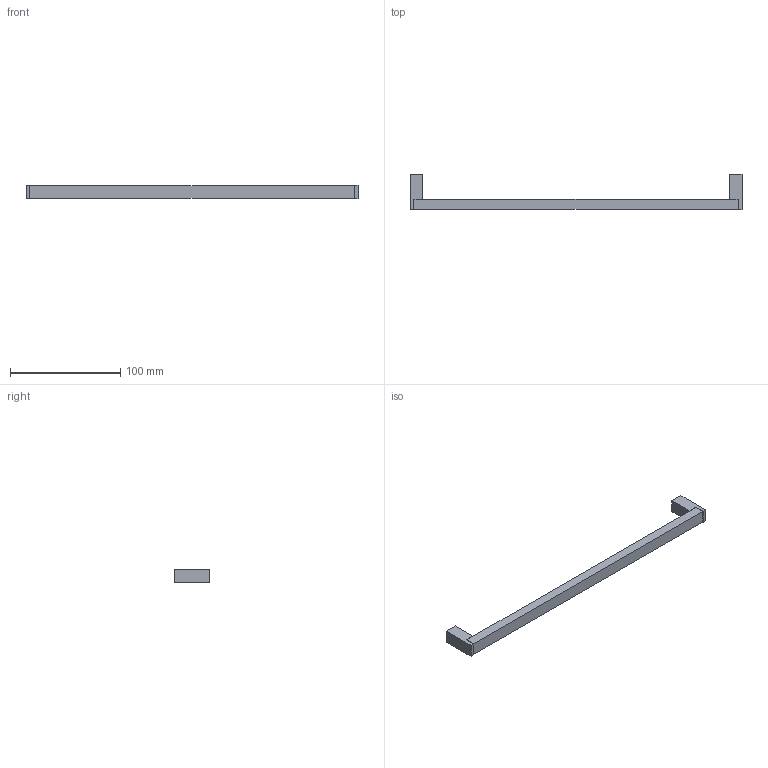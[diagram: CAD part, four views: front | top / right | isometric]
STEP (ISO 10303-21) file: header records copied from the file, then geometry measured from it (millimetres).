
FILE_DESCRIPTION( ( 'STEP AP214' ), '1' );
FILE_NAME( 'C:/Users/kulkarni/Desktop/Apurva/2015/Prodecor_2016/Cadfiles/bermeo/9208079.stp', ' ', ( ' ' ), ( ' ' ), 'PSStep 15.0.47', 'PARTsolutions', ' ' );
FILE_SCHEMA( ( 'AUTOMOTIVE_DESIGN { 1 0 10303 214 1 1 1 1 }' ) );
Length unit declared in the file: millimetre
Products named in the file (1): _
Bounding box: 301 x 32 x 12.15 mm (x, y, z)
Volume: 37204.5 mm3; surface area: 15297.4 mm2
Topology: 1 solids, 1 shells, 26 faces, 62 edges, 40 vertices
Faces by surface type: plane 24, cylinder 2
Full cylindrical faces by diameter (mm): 5 x2
Entity records: 952 total; most frequent: CARTESIAN_POINT 127, ORIENTED_EDGE 120, DIRECTION 118, EDGE_CURVE 60, LINE 56, VECTOR 56, VERTEX_POINT 40, AXIS2_PLACEMENT_3D 31
